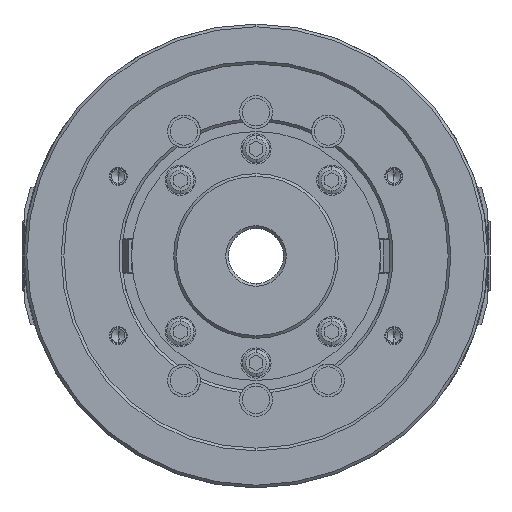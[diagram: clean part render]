
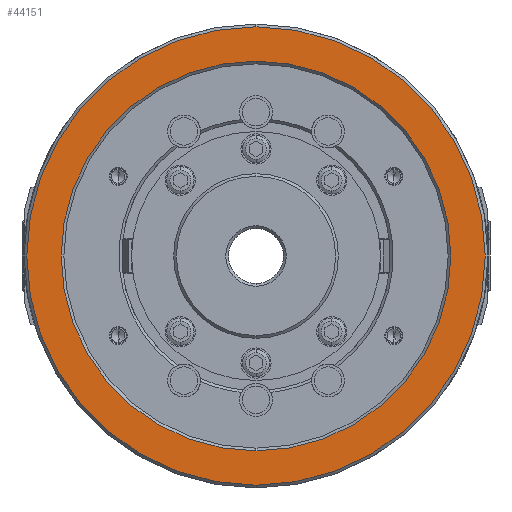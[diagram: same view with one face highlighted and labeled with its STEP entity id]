
A CAD part, left-side view. The second image highlights one B-rep face of the part: STEP entity #44151.
In plain terms, the highlighted planar face has unit normal (-1, 0, 0).
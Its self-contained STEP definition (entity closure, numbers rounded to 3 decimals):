
#1064 = CARTESIAN_POINT ( 'NONE',  ( -81., 0., 71. ) ) ;
#3449 = CARTESIAN_POINT ( 'NONE',  ( -81., 0., 0. ) ) ;
#3609 = ORIENTED_EDGE ( 'NONE', *, *, #39716, .T. ) ;
#4219 = CARTESIAN_POINT ( 'NONE',  ( -81., 0., 83.5 ) ) ;
#8539 = DIRECTION ( 'NONE',  ( 0., 0., 1. ) ) ;
#11905 = CARTESIAN_POINT ( 'NONE',  ( -81., 84.5, 0. ) ) ;
#14949 = AXIS2_PLACEMENT_3D ( 'NONE', #15959, #51497, #21078 ) ;
#15959 = CARTESIAN_POINT ( 'NONE',  ( -81., 0., 0. ) ) ;
#17034 = AXIS2_PLACEMENT_3D ( 'NONE', #19092, #54626, #24209 ) ;
#17630 = EDGE_CURVE ( 'NONE', #60878, #37948, #25832, .T. ) ;
#17725 = DIRECTION ( 'NONE',  ( -1., 0., 0. ) ) ;
#19092 = CARTESIAN_POINT ( 'NONE',  ( -81., 0., 0. ) ) ;
#21078 = DIRECTION ( 'NONE',  ( 0., 0., 1. ) ) ;
#21894 = CARTESIAN_POINT ( 'NONE',  ( -81., 0., -83.5 ) ) ;
#22022 = ORIENTED_EDGE ( 'NONE', *, *, #37463, .T. ) ;
#22167 = PLANE ( 'NONE',  #39588 ) ;
#24209 = DIRECTION ( 'NONE',  ( 0., 0., 1. ) ) ;
#25506 = VERTEX_POINT ( 'NONE', #1064 ) ;
#25832 = CIRCLE ( 'NONE', #14949, 83.5 ) ;
#26867 = CIRCLE ( 'NONE', #29712, 71. ) ;
#27307 = DIRECTION ( 'NONE',  ( -1., 0., 0. ) ) ;
#29712 = AXIS2_PLACEMENT_3D ( 'NONE', #3449, #38947, #8539 ) ;
#31679 = CARTESIAN_POINT ( 'NONE',  ( -81., 0., -71. ) ) ;
#32985 = AXIS2_PLACEMENT_3D ( 'NONE', #48154, #17725, #53275 ) ;
#33424 = ORIENTED_EDGE ( 'NONE', *, *, #43782, .T. ) ;
#37382 = FACE_OUTER_BOUND ( 'NONE', #39798, .T. ) ;
#37463 = EDGE_CURVE ( 'NONE', #37948, #60878, #62932, .T. ) ;
#37948 = VERTEX_POINT ( 'NONE', #21894 ) ;
#38947 = DIRECTION ( 'NONE',  ( 1., 0., 0. ) ) ;
#38976 = FACE_BOUND ( 'NONE', #62451, .T. ) ;
#39588 = AXIS2_PLACEMENT_3D ( 'NONE', #11905, #27307, #62831 ) ;
#39716 = EDGE_CURVE ( 'NONE', #25506, #63135, #26867, .T. ) ;
#39798 = EDGE_LOOP ( 'NONE', ( #22022, #43172 ) ) ;
#43172 = ORIENTED_EDGE ( 'NONE', *, *, #17630, .T. ) ;
#43782 = EDGE_CURVE ( 'NONE', #63135, #25506, #61998, .T. ) ;
#44151 = ADVANCED_FACE ( 'NONE', ( #38976, #37382 ), #22167, .T. ) ;
#48154 = CARTESIAN_POINT ( 'NONE',  ( -81., 0., 0. ) ) ;
#51497 = DIRECTION ( 'NONE',  ( -1., 0., 0. ) ) ;
#53275 = DIRECTION ( 'NONE',  ( 0., 0., 1. ) ) ;
#54626 = DIRECTION ( 'NONE',  ( 1., 0., 0. ) ) ;
#60878 = VERTEX_POINT ( 'NONE', #4219 ) ;
#61998 = CIRCLE ( 'NONE', #17034, 71. ) ;
#62451 = EDGE_LOOP ( 'NONE', ( #3609, #33424 ) ) ;
#62831 = DIRECTION ( 'NONE',  ( 0., 0., 1. ) ) ;
#62932 = CIRCLE ( 'NONE', #32985, 83.5 ) ;
#63135 = VERTEX_POINT ( 'NONE', #31679 ) ;
